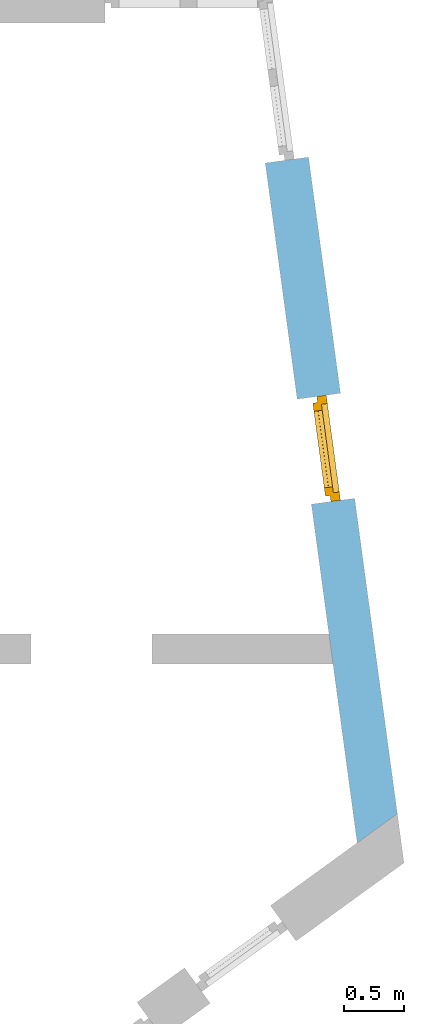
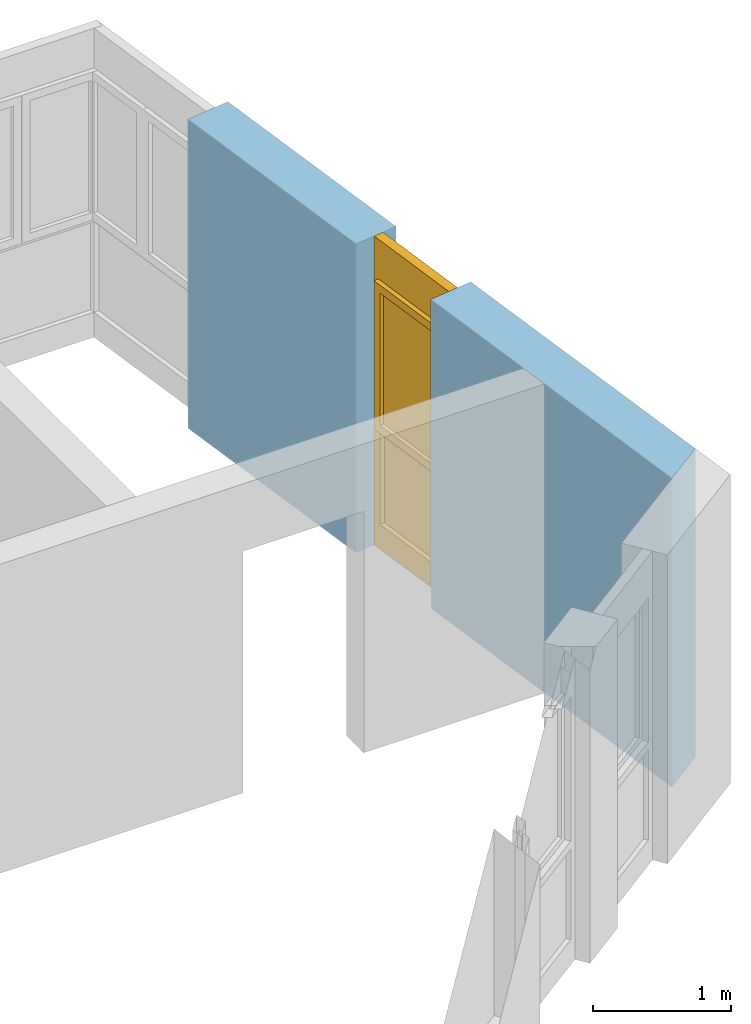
# One storey, part 41 of 41: 1 window, 2 openings, plus 1 element that does not belong to this part.
"""IFC2X3 building model written with IfcOpenShell, lengths in millimetres."""

import ifcopenshell
import ifcopenshell.guid

model = None  # the IFC model being written
_history = None  # IfcOwnerHistory: only IFC2X3 demands one
_inside = {}  # id of a spatial element -> (the spatial element, [elements in it])
_under = {}  # id of a project, library or spatial element -> (it, [spatial elements below it])
_declared = {}  # id of a project -> (the project, [libraries it declares])
_typed = {}  # id of a type object -> (the type object, [elements of that type])
_made_of = {}  # id of a material, layer set ... -> (it, [elements and type objects made of it])


def new_model(schema):
    """Start an empty IFC model of exactly this schema.

    Asked for "IFC4X3", IfcOpenShell would pick the latest addendum, in which some entities
    have other attributes; the version numbers below select the first issue.
    IFC2X3 requires an IfcOwnerHistory on every rooted entity: one is made here for all.
    """
    global model, _history
    if schema == "IFC4X3":
        model = ifcopenshell.file(schema_version=(4, 3, 0, 0))
    else:
        model = ifcopenshell.file(schema=schema)
    _inside.clear()
    _under.clear()
    _declared.clear()
    _typed.clear()
    _made_of.clear()
    _history = None
    if model.schema == "IFC2X3":
        org = make("IfcOrganization", Name="unknown")
        user = make(
            "IfcPersonAndOrganization",
            ThePerson=make("IfcPerson", FamilyName="unknown"),
            TheOrganization=org,
        )
        app = make(
            "IfcApplication",
            ApplicationDeveloper=org,
            Version="unknown",
            ApplicationFullName="unknown",
            ApplicationIdentifier="unknown",
        )
        _history = make(
            "IfcOwnerHistory",
            OwningUser=user,
            OwningApplication=app,
            ChangeAction="ADDED",
            CreationDate=0,
        )
    return model


def make(cls, **values):
    """One entity of the class cls with the attributes given. An attribute that is None is left unset."""
    return model.create_entity(
        cls, **{name: value for name, value in values.items() if value is not None}
    )


def entity(cls, *values):
    """Any entity or typed value of the class cls, its attributes in the order of the schema. None: left unset."""
    e = model.create_entity(cls)
    for i, value in enumerate(values):
        if value is not None:
            e[i] = value
    return e


def rooted(cls, **values):
    """An entity with a GlobalId (a new one), such as an element, a storey or a relation."""
    return make(cls, GlobalId=ifcopenshell.guid.new(), OwnerHistory=_history, **values)


def si_unit(unit_type, name, prefix=None):
    """IfcSIUnit, for example si_unit("LENGTHUNIT", "METRE", prefix="MILLI")."""
    return make("IfcSIUnit", UnitType=unit_type, Prefix=prefix, Name=name)


def converted_unit(unit_type, name, factor, base, dimensions=None, offset=None):
    """IfcConversionBasedUnit, such as the inch: factor (a typed value) times the base unit."""
    return make(
        "IfcConversionBasedUnit"
        if offset is None
        else "IfcConversionBasedUnitWithOffset",
        ConversionOffset=offset,
        Dimensions=None
        if dimensions is None
        else entity("IfcDimensionalExponents", *dimensions),
        UnitType=unit_type,
        Name=name,
        ConversionFactor=make(
            "IfcMeasureWithUnit", ValueComponent=factor, UnitComponent=base
        ),
    )


def assignment(units):
    """IfcUnitAssignment: the units of a project."""
    return None if units is None else make("IfcUnitAssignment", Units=units)


def point(xyz):
    """IfcCartesianPoint."""
    return None if xyz is None else make("IfcCartesianPoint", Coordinates=xyz)


def direction(xyz):
    """IfcDirection."""
    return None if xyz is None else make("IfcDirection", DirectionRatios=xyz)


def frame(location, z_axis=None, x_axis=None):
    """IfcAxis2Placement3D, a coordinate frame: its origin and axes. An axis left out is left unset."""
    return make(
        "IfcAxis2Placement3D",
        Location=point(location),
        Axis=direction(z_axis),
        RefDirection=direction(x_axis),
    )


def frame_2d(location, x_axis=None):
    """IfcAxis2Placement2D, a coordinate frame in the plane: its origin and x axis."""
    return make(
        "IfcAxis2Placement2D", Location=point(location), RefDirection=direction(x_axis)
    )


def origin():
    """The frame at (0, 0, 0) with its axes left unset."""
    return frame((0.0, 0.0, 0.0))


def origin_with_axes():
    """The frame at (0, 0, 0) with the z axis (0, 0, 1) and the x axis (1, 0, 0) written out."""
    return frame((0.0, 0.0, 0.0), z_axis=(0.0, 0.0, 1.0), x_axis=(1.0, 0.0, 0.0))


def place(relative_to, where):
    """IfcLocalPlacement: puts the frame where relative to a parent placement (None: the world)."""
    return make(
        "IfcLocalPlacement", PlacementRelTo=relative_to, RelativePlacement=where
    )


def context(
    kind, dimensions, precision=None, world=None, true_north=None, identifier=None
):
    """IfcGeometricRepresentationContext, for example the 3D "Model" context."""
    return make(
        "IfcGeometricRepresentationContext",
        ContextIdentifier=identifier,
        ContextType=kind,
        CoordinateSpaceDimension=dimensions,
        Precision=precision,
        WorldCoordinateSystem=world,
        TrueNorth=true_north,
    )


def subcontext(parent, identifier, kind, view, scale=None):
    """IfcGeometricRepresentationSubContext, for example "Body" below "Model"."""
    return make(
        "IfcGeometricRepresentationSubContext",
        ContextIdentifier=identifier,
        ContextType=kind,
        ParentContext=parent,
        TargetScale=scale,
        TargetView=view,
    )


def project(units=None, contexts=None):
    """IfcProject with its units and contexts."""
    return rooted(
        "IfcProject",
        Name="project",
        RepresentationContexts=contexts,
        UnitsInContext=assignment(units),
    )


def spatial(cls, under=None, at=None, **own):
    """A site, building, storey or space (cls), placed at a placement, below another one or the project."""
    s = rooted(cls, ObjectPlacement=at, **own)
    if under is not None:
        _under.setdefault(under.id(), (under, []))[1].append(s)
    return s


def polyline(points):
    """IfcPolyline through the points."""
    return make("IfcPolyline", Points=[point(p) for p in points])


def profile(cls, at=None, kind="AREA", **sizes):
    """A parametric profile (cls). Its sizes go by their IFC names, for example OverallWidth=200.0."""
    return make(cls, ProfileType=kind, Position=at, **sizes)


def rectangle(**sizes):
    """IfcRectangleProfileDef."""
    return profile("IfcRectangleProfileDef", **sizes)


def outline(outer, holes=None, kind="AREA"):
    """IfcArbitraryClosedProfileDef: a profile drawn as a closed curve; with holes, ...WithVoids."""
    if holes is None:
        return make("IfcArbitraryClosedProfileDef", ProfileType=kind, OuterCurve=outer)
    return make(
        "IfcArbitraryProfileDefWithVoids",
        ProfileType=kind,
        OuterCurve=outer,
        InnerCurves=holes,
    )


def extrude(swept, where, along, depth):
    """IfcExtrudedAreaSolid: the profile swept, set in the frame where, extruded along a direction by depth."""
    return make(
        "IfcExtrudedAreaSolid",
        SweptArea=swept,
        Position=where,
        ExtrudedDirection=direction(along),
        Depth=depth,
    )


def faces_of(points, faces, orient=None, outer=None):
    """IfcFace entities. A face is a list of loops; a loop is a list of indices into points, from 0.

    orient and outer hold one flag for each loop. By default every Orientation is true, the
    first loop of a face is its IfcFaceOuterBound and the others are IfcFaceBound.
    """
    made = []
    for i, loops in enumerate(faces):
        bounds = []
        for j, loop in enumerate(loops):
            is_outer = j == 0 if outer is None else outer[i][j]
            bounds.append(
                make(
                    "IfcFaceOuterBound" if is_outer else "IfcFaceBound",
                    Bound=make("IfcPolyLoop", Polygon=[points[k] for k in loop]),
                    Orientation=True if orient is None else orient[i][j],
                )
            )
        made.append(make("IfcFace", Bounds=bounds))
    return made


def faceted_brep(points, faces, orient=None, outer=None, voids=None):
    """IfcFacetedBrep: a solid bounded by flat faces; with voids (closed shells), ...WithVoids."""
    shared = [point(p) for p in points]
    hull = make("IfcClosedShell", CfsFaces=faces_of(shared, faces, orient, outer))
    if voids is None:
        return make("IfcFacetedBrep", Outer=hull)
    return make(
        "IfcFacetedBrepWithVoids",
        Outer=hull,
        Voids=[
            make(cls, CfsFaces=faces_of(shared, fs, o, b)) for cls, fs, o, b in voids
        ],
    )


def shape(context_of_items, identifier, shape_type, items):
    """IfcShapeRepresentation: the items that make up one representation, for example the "Body"."""
    return make(
        "IfcShapeRepresentation",
        ContextOfItems=context_of_items,
        RepresentationIdentifier=identifier,
        RepresentationType=shape_type,
        Items=items,
    )


def material(Name=None, Category=None):
    """IfcMaterial."""
    return make("IfcMaterial", Name=Name, Category=Category)


def layer(
    of_material, thickness, ventilated=None, Name=None, Category=None, Priority=None
):
    """IfcMaterialLayer: one layer of a wall or slab, of a material (None: an air gap)."""
    return make(
        "IfcMaterialLayer",
        Material=of_material,
        LayerThickness=thickness,
        IsVentilated=ventilated,
        Name=Name,
        Category=Category,
        Priority=Priority,
    )


def layer_set(layers, Name=None):
    """IfcMaterialLayerSet."""
    return make("IfcMaterialLayerSet", MaterialLayers=layers, LayerSetName=Name)


def layer_usage(for_layer_set, set_direction, sense, offset, extent=None):
    """IfcMaterialLayerSetUsage: how a layer set lies in its element."""
    return make(
        "IfcMaterialLayerSetUsage",
        ForLayerSet=for_layer_set,
        LayerSetDirection=set_direction,
        DirectionSense=sense,
        OffsetFromReferenceLine=offset,
        ReferenceExtent=extent,
    )


def made_of(thing, what):
    """Note that an element or type object is made of a material, layer set ...; save() writes the relation."""
    if what is not None:
        _made_of.setdefault(what.id(), (what, []))[1].append(thing)
    return thing


def type_object(cls, material=None, **own):
    """A type object (cls), such as IfcWallType, which elements share."""
    return made_of(rooted(cls, **own), material)


def element(
    cls,
    number,
    at=None,
    inside=None,
    cuts=None,
    type_object=None,
    material=None,
    context=None,
    identifier="Body",
    shape_type=None,
    held_by="IfcProductDefinitionShape",
    body=None,
    shapes=None,
    **own,
):
    """One element of the class cls, such as IfcWall. Its Tag is "e" and its number.

    at: its placement. inside: the storey or other place that contains it. cuts: it is an
    opening in that element (IfcRelVoidsElement). A single representation is given by context,
    identifier, shape_type and body (its items); several are given by shapes. held_by: the class
    of the entity that holds the representations. save() writes the other relations.
    """
    e = rooted(cls, Tag="e%d" % number, ObjectPlacement=at, **own)
    if body is not None:
        shapes = [shape(context, identifier, shape_type, body)]
    if shapes is not None:
        e.Representation = make(held_by, Representations=shapes)
    if inside is not None:
        _inside.setdefault(inside.id(), (inside, []))[1].append(e)
    if cuts is not None:
        rooted(
            "IfcRelVoidsElement", RelatingBuildingElement=cuts, RelatedOpeningElement=e
        )
    if type_object is not None:
        _typed.setdefault(type_object.id(), (type_object, []))[1].append(e)
    return made_of(e, material)


def fill(opening, filler):
    """IfcRelFillsElement: the door or window that sits in an opening."""
    return rooted(
        "IfcRelFillsElement",
        RelatingOpeningElement=opening,
        RelatedBuildingElement=filler,
    )


def aggregate(whole, parts):
    """IfcRelAggregates: a whole, such as a stair, and the parts it consists of."""
    return rooted("IfcRelAggregates", RelatingObject=whole, RelatedObjects=parts)


def save(model, path):
    """Write the relations noted so far, then the file.

    IfcRelAggregates (storeys below a building ...), IfcRelContainedInSpatialStructure (elements
    in a storey), IfcRelDefinesByType, IfcRelAssociatesMaterial and IfcRelDeclares: one each for
    every whole, place, type object, material and project.
    """
    for whole, parts in _under.values():
        aggregate(whole, parts)
    for where, things in _inside.values():
        rooted(
            "IfcRelContainedInSpatialStructure",
            RelatedElements=things,
            RelatingStructure=where,
        )
    for kind, things in _typed.values():
        rooted("IfcRelDefinesByType", RelatedObjects=things, RelatingType=kind)
    for what, things in _made_of.values():
        rooted("IfcRelAssociatesMaterial", RelatedObjects=things, RelatingMaterial=what)
    for by, libraries in _declared.values():
        rooted("IfcRelDeclares", RelatingContext=by, RelatedDefinitions=libraries)
    model.write(path)


model = new_model("IFC2X3")

# Units and contexts
model_context = context("Model", 3, precision=1e-05, world=origin())
body_context = subcontext(model_context, "Body", "Model", "MODEL_VIEW")
ifc_project = project(units=[si_unit("LENGTHUNIT", "METRE", prefix="MILLI"), converted_unit("PLANEANGLEUNIT", "DEGREE", entity("IfcPlaneAngleMeasure", 0.0174532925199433), si_unit("PLANEANGLEUNIT", "RADIAN"), dimensions=[0, 0, 0, 0, 0, 0, 0]), si_unit("AREAUNIT", "SQUARE_METRE"), si_unit("VOLUMEUNIT", "CUBIC_METRE")], contexts=[model_context])

# Building, storey
building_placement = place(None, origin())
building = spatial("IfcBuilding", under=ifc_project, at=building_placement, Name="Gebäude", CompositionType="ELEMENT")
storey_placement = place(building_placement, frame((0.0, 0.0, -200.0), z_axis=(0.0, 0.0, 1.0), x_axis=(1.0, 0.0, 0.0)))
storey = spatial("IfcBuildingStorey", under=building, at=storey_placement, Name="EG.- Grundriss", CompositionType="ELEMENT", Elevation=-200.0)

# Wall, openings, window
ifc_material_1 = material(Name="Poroton")
ifc_layer = layer(ifc_material_1, 365.0000000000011)
ifc_layer_set = layer_set([ifc_layer])
ifc_layer_usage = layer_usage(ifc_layer_set, "AXIS2", "POSITIVE", 0.0)
wall_placement = place(storey_placement, frame((185447.2761832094, 129305.31365621, 0.0), z_axis=(0.0, 0.0, 1.0), x_axis=(-0.1340451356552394, 0.9909752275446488, 0.0)))
wall = element("IfcWallStandardCase", 1, at=wall_placement, inside=storey, material=ifc_layer_usage, Name="<Unnamed Element>", context=body_context, shape_type="SweptSolid", body=[
    extrude(outline(polyline([(0.0, 0.0), (7033.045713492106, 1.13686837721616e-13), (7082.417759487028, 365.0000000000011), (-195.7205517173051, 364.9999999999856), (0.0, 0.0)])), origin_with_axes(), (0.0, 0.0, 1.0), 2730.0),
])
opening_1_placement = place(wall_placement, frame((5533.045713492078, -1.84172677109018e-11, 0.0), z_axis=(0.0, 1.0, 0.0), x_axis=(0.0, 0.0, 1.0)))
element("IfcOpeningElement", 2, at=opening_1_placement, cuts=wall, Name="Fensteröffnung", ObjectType="Opening", context=body_context, shape_type="Brep", body=[
    faceted_brep([(0.0, 1.455191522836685e-11, 365.0), (0.0, 1.455191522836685e-11, 0.0), (0.0, 1500.000000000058, 0.0), (0.0, 1701.067703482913, 1486.46284131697), (0.0, 1339.361745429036, 1535.389315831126), (0.0, 1181.048005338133, 365.0), (2730.0, 1.455191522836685e-11, 0.0), (2730.0, 1.455191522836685e-11, 365.0), (2730.0, 1181.048005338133, 365.0), (2730.0, 1339.361745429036, 1535.389315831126), (2730.0, 1701.067703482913, 1486.46284131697), (2730.0, 1500.000000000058, 0.0), (0.0, 1.455191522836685e-11, 0.0), (0.0, 1.455191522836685e-11, 365.0), (2730.0, 1.455191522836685e-11, 365.0), (2730.0, 1.455191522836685e-11, 0.0), (0.0, 1500.000000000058, 0.0), (0.0, 1.455191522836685e-11, 0.0), (2730.0, 1.455191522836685e-11, 0.0), (2730.0, 1500.000000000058, 0.0), (0.0, 1.455191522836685e-11, 365.0), (0.0, 1181.048005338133, 365.0), (2730.0, 1181.048005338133, 365.0), (2730.0, 1.455191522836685e-11, 365.0), (0.0, 1701.067703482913, 1486.46284131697), (0.0, 1500.000000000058, 0.0), (2730.0, 1500.000000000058, 0.0), (2730.0, 1701.067703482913, 1486.46284131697), (0.0, 1339.361745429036, 1535.389315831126), (0.0, 1701.067703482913, 1486.46284131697), (2730.0, 1701.067703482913, 1486.46284131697), (2730.0, 1339.361745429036, 1535.389315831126), (0.0, 1181.048005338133, 365.0), (0.0, 1339.361745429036, 1535.389315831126), (2730.0, 1339.361745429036, 1535.389315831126), (2730.0, 1181.048005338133, 365.0)], [[[0, 1, 2, 3, 4, 5]], [[6, 7, 8, 9, 10, 11]], [[12, 13, 14, 15]], [[16, 17, 18, 19]], [[20, 21, 22, 23]], [[24, 25, 26, 27]], [[28, 29, 30, 31]], [[32, 33, 34, 35]]], orient=[[False], [False], [False], [False], [False], [False], [False], [False]]),
])
opening_2_placement = place(wall_placement, frame((2658.045713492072, -2.228262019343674e-11, 0.0), z_axis=(0.0, 1.0, 0.0), x_axis=(0.0, 0.0, 1.0)))
opening_2 = element("IfcOpeningElement", 3, at=opening_2_placement, cuts=wall, Name="Fensteröffnung", ObjectType="Opening", context=body_context, shape_type="SweptSolid", body=[
    extrude(rectangle(XDim=2730.0, YDim=885.0000000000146, at=frame_2d((1365.0, 442.5000000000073), x_axis=(1.0, 0.0))), origin_with_axes(), (0.0, 0.0, 1.0), 365.0000000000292),
])
ifc_material_2 = material()
window_style = type_object("IfcWindowStyle", Name="Fenster", ConstructionType="NOTDEFINED", OperationType="USERDEFINED", ParameterTakesPrecedence=False, Sizeable=False)
window_placement = place(opening_2_placement, frame((0.0, 0.0, 0.0), z_axis=(1.0, 0.0, 0.0), x_axis=(0.0, 1.0, 0.0)))
window = element("IfcWindow", 4, at=window_placement, inside=storey, type_object=window_style, material=ifc_material_2, Name="Fenster", OverallHeight=2730.0, OverallWidth=885.0, context=body_context, shape_type="Brep", body=[
    faceted_brep([(1.488720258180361e-11, 200.0000000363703, 2730.0), (1.488720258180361e-11, 200.0000000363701, -2.449293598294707e-15), (69.99999999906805, 200.0000000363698, -2.449293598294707e-15), (69.99999999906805, 200.00000003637, 2730.0), (1.455191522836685e-11, 120.0000000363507, 2.449293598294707e-15), (1.455191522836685e-11, 120.0000000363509, 2730.0), (69.99999999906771, 120.0000000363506, 2730.0), (69.99999999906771, 120.0000000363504, 2.449293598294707e-15), (1.488720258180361e-11, 200.0000000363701, -2.449293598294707e-15), (1.488720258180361e-11, 200.0000000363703, 2730.0), (1.455191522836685e-11, 120.0000000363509, 2730.0), (1.455191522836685e-11, 120.0000000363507, 2.449293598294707e-15), (69.99999999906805, 200.0000000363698, -2.449293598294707e-15), (1.488720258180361e-11, 200.0000000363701, -2.449293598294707e-15), (1.455191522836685e-11, 120.0000000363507, 2.449293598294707e-15), (69.99999999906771, 120.0000000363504, 2.449293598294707e-15), (69.99999999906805, 200.00000003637, 2730.0), (69.99999999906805, 200.0000000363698, -2.449293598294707e-15), (69.99999999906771, 120.0000000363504, 2.449293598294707e-15), (69.99999999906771, 120.0000000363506, 2730.0), (1.488720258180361e-11, 200.0000000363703, 2730.0), (69.99999999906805, 200.00000003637, 2730.0), (69.99999999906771, 120.0000000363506, 2730.0), (1.455191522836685e-11, 120.0000000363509, 2730.0)], [[[0, 1, 2, 3]], [[4, 5, 6, 7]], [[8, 9, 10, 11]], [[12, 13, 14, 15]], [[16, 17, 18, 19]], [[20, 21, 22, 23]]], orient=[[False], [False], [False], [False], [False], [False]]),
    faceted_brep([(815.0000000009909, 200.0000000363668, 2730.0), (815.0000000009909, 200.0000000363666, -2.449293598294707e-15), (885.000000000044, 200.0000000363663, -2.449293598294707e-15), (885.000000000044, 200.0000000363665, 2730.0), (815.0000000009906, 120.0000000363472, 2.449293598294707e-15), (815.0000000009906, 120.0000000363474, 2730.0), (885.0000000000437, 120.0000000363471, 2730.0), (885.0000000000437, 120.0000000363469, 2.449293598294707e-15), (815.0000000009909, 200.0000000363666, -2.449293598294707e-15), (815.0000000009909, 200.0000000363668, 2730.0), (815.0000000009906, 120.0000000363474, 2730.0), (815.0000000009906, 120.0000000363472, 2.449293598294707e-15), (885.000000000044, 200.0000000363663, -2.449293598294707e-15), (815.0000000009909, 200.0000000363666, -2.449293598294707e-15), (815.0000000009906, 120.0000000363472, 2.449293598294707e-15), (885.0000000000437, 120.0000000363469, 2.449293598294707e-15), (885.000000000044, 200.0000000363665, 2730.0), (885.000000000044, 200.0000000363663, -2.449293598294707e-15), (885.0000000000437, 120.0000000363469, 2.449293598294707e-15), (885.0000000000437, 120.0000000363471, 2730.0), (815.0000000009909, 200.0000000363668, 2730.0), (885.000000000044, 200.0000000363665, 2730.0), (885.0000000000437, 120.0000000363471, 2730.0), (815.0000000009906, 120.0000000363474, 2730.0)], [[[0, 1, 2, 3]], [[4, 5, 6, 7]], [[8, 9, 10, 11]], [[12, 13, 14, 15]], [[16, 17, 18, 19]], [[20, 21, 22, 23]]], orient=[[False], [False], [False], [False], [False], [False]]),
    faceted_brep([(69.99999999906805, 200.0000000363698, 220.0), (69.99999999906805, 200.0000000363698, -2.449293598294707e-15), (815.0000000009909, 200.0000000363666, -2.449293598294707e-15), (815.0000000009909, 200.0000000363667, 220.0), (69.99999999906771, 120.0000000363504, 2.449293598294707e-15), (69.99999999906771, 120.0000000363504, 220.0), (815.0000000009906, 120.0000000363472, 220.0), (815.0000000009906, 120.0000000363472, 2.449293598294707e-15), (69.99999999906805, 200.0000000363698, -2.449293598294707e-15), (69.99999999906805, 200.0000000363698, 220.0), (69.99999999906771, 120.0000000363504, 220.0), (69.99999999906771, 120.0000000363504, 2.449293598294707e-15), (815.0000000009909, 200.0000000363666, -2.449293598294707e-15), (69.99999999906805, 200.0000000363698, -2.449293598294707e-15), (69.99999999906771, 120.0000000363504, 2.449293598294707e-15), (815.0000000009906, 120.0000000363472, 2.449293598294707e-15), (815.0000000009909, 200.0000000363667, 220.0), (815.0000000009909, 200.0000000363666, -2.449293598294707e-15), (815.0000000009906, 120.0000000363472, 2.449293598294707e-15), (815.0000000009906, 120.0000000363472, 220.0), (69.99999999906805, 200.0000000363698, 220.0), (815.0000000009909, 200.0000000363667, 220.0), (815.0000000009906, 120.0000000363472, 220.0), (69.99999999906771, 120.0000000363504, 220.0)], [[[0, 1, 2, 3]], [[4, 5, 6, 7]], [[8, 9, 10, 11]], [[12, 13, 14, 15]], [[16, 17, 18, 19]], [[20, 21, 22, 23]]], orient=[[False], [False], [False], [False], [False], [False]]),
    faceted_brep([(69.99999999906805, 200.00000003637, 2730.0), (69.99999999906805, 200.00000003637, 2360.0), (815.0000000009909, 200.0000000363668, 2360.0), (815.0000000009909, 200.0000000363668, 2730.0), (69.99999999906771, 120.0000000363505, 2360.0), (69.99999999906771, 120.0000000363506, 2730.0), (815.0000000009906, 120.0000000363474, 2730.0), (815.0000000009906, 120.0000000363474, 2360.0), (69.99999999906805, 200.00000003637, 2360.0), (69.99999999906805, 200.00000003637, 2730.0), (69.99999999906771, 120.0000000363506, 2730.0), (69.99999999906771, 120.0000000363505, 2360.0), (815.0000000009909, 200.0000000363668, 2360.0), (69.99999999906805, 200.00000003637, 2360.0), (69.99999999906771, 120.0000000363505, 2360.0), (815.0000000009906, 120.0000000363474, 2360.0), (815.0000000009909, 200.0000000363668, 2730.0), (815.0000000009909, 200.0000000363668, 2360.0), (815.0000000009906, 120.0000000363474, 2360.0), (815.0000000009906, 120.0000000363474, 2730.0), (69.99999999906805, 200.00000003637, 2730.0), (815.0000000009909, 200.0000000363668, 2730.0), (815.0000000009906, 120.0000000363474, 2730.0), (69.99999999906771, 120.0000000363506, 2730.0)], [[[0, 1, 2, 3]], [[4, 5, 6, 7]], [[8, 9, 10, 11]], [[12, 13, 14, 15]], [[16, 17, 18, 19]], [[20, 21, 22, 23]]], orient=[[False], [False], [False], [False], [False], [False]]),
    faceted_brep([(69.99999999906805, 200.0000000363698, 1090.0), (69.99999999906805, 200.0000000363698, 1020.0), (815.0000000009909, 200.0000000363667, 1020.0), (815.0000000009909, 200.0000000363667, 1090.0), (69.99999999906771, 120.0000000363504, 1020.0), (69.99999999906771, 120.0000000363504, 1090.0), (815.0000000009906, 120.0000000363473, 1090.0), (815.0000000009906, 120.0000000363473, 1020.0), (69.99999999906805, 200.0000000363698, 1020.0), (69.99999999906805, 200.0000000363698, 1090.0), (69.99999999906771, 120.0000000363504, 1090.0), (69.99999999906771, 120.0000000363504, 1020.0), (815.0000000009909, 200.0000000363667, 1020.0), (69.99999999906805, 200.0000000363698, 1020.0), (69.99999999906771, 120.0000000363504, 1020.0), (815.0000000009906, 120.0000000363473, 1020.0), (815.0000000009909, 200.0000000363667, 1090.0), (815.0000000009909, 200.0000000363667, 1020.0), (815.0000000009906, 120.0000000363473, 1020.0), (815.0000000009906, 120.0000000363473, 1090.0), (69.99999999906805, 200.0000000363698, 1090.0), (815.0000000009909, 200.0000000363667, 1090.0), (815.0000000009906, 120.0000000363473, 1090.0), (69.99999999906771, 120.0000000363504, 1090.0)], [[[0, 1, 2, 3]], [[4, 5, 6, 7]], [[8, 9, 10, 11]], [[12, 13, 14, 15]], [[16, 17, 18, 19]], [[20, 21, 22, 23]]], orient=[[False], [False], [False], [False], [False], [False]]),
    faceted_brep([(69.99999999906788, 160.0000000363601, 220.0), (815.0000000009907, 160.0000000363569, 220.0), (815.0000000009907, 160.000000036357, 1020.0), (69.99999999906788, 160.0000000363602, 1020.0), (69.99999999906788, 159.0000000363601, 220.0), (69.99999999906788, 159.0000000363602, 1020.0), (815.0000000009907, 159.000000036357, 1020.0), (815.0000000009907, 159.0000000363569, 220.0), (69.99999999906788, 160.0000000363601, 220.0), (69.99999999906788, 159.0000000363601, 220.0), (815.0000000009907, 159.0000000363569, 220.0), (815.0000000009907, 160.0000000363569, 220.0), (815.0000000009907, 160.0000000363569, 220.0), (815.0000000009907, 159.0000000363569, 220.0), (815.0000000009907, 159.000000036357, 1020.0), (815.0000000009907, 160.000000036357, 1020.0), (815.0000000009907, 160.000000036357, 1020.0), (815.0000000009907, 159.000000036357, 1020.0), (69.99999999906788, 159.0000000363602, 1020.0), (69.99999999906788, 160.0000000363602, 1020.0), (69.99999999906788, 160.0000000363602, 1020.0), (69.99999999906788, 159.0000000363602, 1020.0), (69.99999999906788, 159.0000000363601, 220.0), (69.99999999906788, 160.0000000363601, 220.0)], [[[0, 1, 2, 3]], [[4, 5, 6, 7]], [[8, 9, 10, 11]], [[12, 13, 14, 15]], [[16, 17, 18, 19]], [[20, 21, 22, 23]]], orient=[[False], [False], [False], [False], [False], [False]]),
    faceted_brep([(49.99999999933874, 240.0000000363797, 2380.0), (49.99999999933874, 240.0000000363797, 1070.0), (119.9999999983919, 240.0000000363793, 1070.0), (119.9999999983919, 240.0000000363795, 2380.0), (49.99999999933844, 170.0000000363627, 1070.0), (49.99999999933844, 170.0000000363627, 2380.0), (119.9999999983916, 170.0000000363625, 2380.0), (119.9999999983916, 170.0000000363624, 1070.0), (49.99999999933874, 240.0000000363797, 1070.0), (49.99999999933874, 240.0000000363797, 2380.0), (49.99999999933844, 170.0000000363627, 2380.0), (49.99999999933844, 170.0000000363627, 1070.0), (119.9999999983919, 240.0000000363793, 1070.0), (49.99999999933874, 240.0000000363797, 1070.0), (49.99999999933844, 170.0000000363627, 1070.0), (119.9999999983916, 170.0000000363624, 1070.0), (119.9999999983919, 240.0000000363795, 2380.0), (119.9999999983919, 240.0000000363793, 1070.0), (119.9999999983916, 170.0000000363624, 1070.0), (119.9999999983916, 170.0000000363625, 2380.0), (49.99999999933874, 240.0000000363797, 2380.0), (119.9999999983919, 240.0000000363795, 2380.0), (119.9999999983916, 170.0000000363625, 2380.0), (49.99999999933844, 170.0000000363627, 2380.0)], [[[0, 1, 2, 3]], [[4, 5, 6, 7]], [[8, 9, 10, 11]], [[12, 13, 14, 15]], [[16, 17, 18, 19]], [[20, 21, 22, 23]]], orient=[[False], [False], [False], [False], [False], [False]]),
    faceted_brep([(765.0000000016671, 240.0000000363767, 2380.0), (765.0000000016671, 240.0000000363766, 1070.0), (835.0000000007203, 240.0000000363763, 1070.0), (835.0000000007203, 240.0000000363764, 2380.0), (765.0000000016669, 170.0000000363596, 1070.0), (765.0000000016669, 170.0000000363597, 2380.0), (835.0000000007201, 170.0000000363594, 2380.0), (835.0000000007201, 170.0000000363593, 1070.0), (765.0000000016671, 240.0000000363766, 1070.0), (765.0000000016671, 240.0000000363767, 2380.0), (765.0000000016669, 170.0000000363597, 2380.0), (765.0000000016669, 170.0000000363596, 1070.0), (835.0000000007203, 240.0000000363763, 1070.0), (765.0000000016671, 240.0000000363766, 1070.0), (765.0000000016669, 170.0000000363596, 1070.0), (835.0000000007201, 170.0000000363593, 1070.0), (835.0000000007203, 240.0000000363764, 2380.0), (835.0000000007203, 240.0000000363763, 1070.0), (835.0000000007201, 170.0000000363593, 1070.0), (835.0000000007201, 170.0000000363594, 2380.0), (765.0000000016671, 240.0000000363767, 2380.0), (835.0000000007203, 240.0000000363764, 2380.0), (835.0000000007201, 170.0000000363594, 2380.0), (765.0000000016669, 170.0000000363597, 2380.0)], [[[0, 1, 2, 3]], [[4, 5, 6, 7]], [[8, 9, 10, 11]], [[12, 13, 14, 15]], [[16, 17, 18, 19]], [[20, 21, 22, 23]]], orient=[[False], [False], [False], [False], [False], [False]]),
    faceted_brep([(119.9999999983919, 240.0000000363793, 1140.0), (119.9999999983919, 240.0000000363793, 1070.0), (765.0000000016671, 240.0000000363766, 1070.0), (765.0000000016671, 240.0000000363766, 1140.0), (119.9999999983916, 170.0000000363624, 1070.0), (119.9999999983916, 170.0000000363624, 1140.0), (765.0000000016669, 170.0000000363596, 1140.0), (765.0000000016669, 170.0000000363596, 1070.0), (119.9999999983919, 240.0000000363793, 1070.0), (119.9999999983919, 240.0000000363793, 1140.0), (119.9999999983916, 170.0000000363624, 1140.0), (119.9999999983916, 170.0000000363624, 1070.0), (765.0000000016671, 240.0000000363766, 1070.0), (119.9999999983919, 240.0000000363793, 1070.0), (119.9999999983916, 170.0000000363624, 1070.0), (765.0000000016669, 170.0000000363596, 1070.0), (765.0000000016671, 240.0000000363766, 1140.0), (765.0000000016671, 240.0000000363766, 1070.0), (765.0000000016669, 170.0000000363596, 1070.0), (765.0000000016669, 170.0000000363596, 1140.0), (119.9999999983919, 240.0000000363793, 1140.0), (765.0000000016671, 240.0000000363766, 1140.0), (765.0000000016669, 170.0000000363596, 1140.0), (119.9999999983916, 170.0000000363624, 1140.0)], [[[0, 1, 2, 3]], [[4, 5, 6, 7]], [[8, 9, 10, 11]], [[12, 13, 14, 15]], [[16, 17, 18, 19]], [[20, 21, 22, 23]]], orient=[[False], [False], [False], [False], [False], [False]]),
    faceted_brep([(119.9999999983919, 240.0000000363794, 2380.0), (119.9999999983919, 240.0000000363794, 2310.0), (765.0000000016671, 240.0000000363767, 2310.0), (765.0000000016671, 240.0000000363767, 2380.0), (119.9999999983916, 170.0000000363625, 2310.0), (119.9999999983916, 170.0000000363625, 2380.0), (765.0000000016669, 170.0000000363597, 2380.0), (765.0000000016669, 170.0000000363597, 2310.0), (119.9999999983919, 240.0000000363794, 2310.0), (119.9999999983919, 240.0000000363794, 2380.0), (119.9999999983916, 170.0000000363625, 2380.0), (119.9999999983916, 170.0000000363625, 2310.0), (765.0000000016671, 240.0000000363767, 2310.0), (119.9999999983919, 240.0000000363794, 2310.0), (119.9999999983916, 170.0000000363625, 2310.0), (765.0000000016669, 170.0000000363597, 2310.0), (765.0000000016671, 240.0000000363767, 2380.0), (765.0000000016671, 240.0000000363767, 2310.0), (765.0000000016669, 170.0000000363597, 2310.0), (765.0000000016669, 170.0000000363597, 2380.0), (119.9999999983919, 240.0000000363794, 2380.0), (765.0000000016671, 240.0000000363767, 2380.0), (765.0000000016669, 170.0000000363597, 2380.0), (119.9999999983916, 170.0000000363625, 2380.0)], [[[0, 1, 2, 3]], [[4, 5, 6, 7]], [[8, 9, 10, 11]], [[12, 13, 14, 15]], [[16, 17, 18, 19]], [[20, 21, 22, 23]]], orient=[[False], [False], [False], [False], [False], [False]]),
    faceted_brep([(119.9999999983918, 205.0000000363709, 1140.0), (765.000000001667, 205.0000000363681, 1140.0), (765.000000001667, 205.0000000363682, 2310.0), (119.9999999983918, 205.000000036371, 2310.0), (119.9999999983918, 204.0000000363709, 1140.0), (119.9999999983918, 204.000000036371, 2310.0), (765.000000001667, 204.0000000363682, 2310.0), (765.000000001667, 204.0000000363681, 1140.0), (119.9999999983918, 205.0000000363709, 1140.0), (119.9999999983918, 204.0000000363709, 1140.0), (765.000000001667, 204.0000000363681, 1140.0), (765.000000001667, 205.0000000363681, 1140.0), (765.000000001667, 205.0000000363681, 1140.0), (765.000000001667, 204.0000000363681, 1140.0), (765.000000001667, 204.0000000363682, 2310.0), (765.000000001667, 205.0000000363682, 2310.0), (765.000000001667, 205.0000000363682, 2310.0), (765.000000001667, 204.0000000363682, 2310.0), (119.9999999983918, 204.000000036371, 2310.0), (119.9999999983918, 205.000000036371, 2310.0), (119.9999999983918, 205.000000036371, 2310.0), (119.9999999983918, 204.000000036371, 2310.0), (119.9999999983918, 204.0000000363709, 1140.0), (119.9999999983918, 205.0000000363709, 1140.0)], [[[0, 1, 2, 3]], [[4, 5, 6, 7]], [[8, 9, 10, 11]], [[12, 13, 14, 15]], [[16, 17, 18, 19]], [[20, 21, 22, 23]]], orient=[[False], [False], [False], [False], [False], [False]]),
])
fill(opening_2, window)

save(model, "model.ifc")
